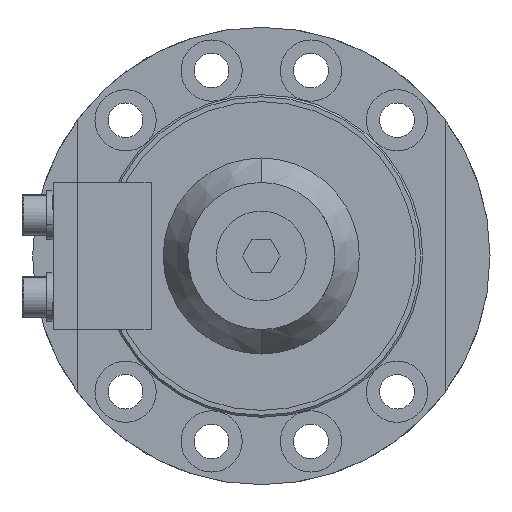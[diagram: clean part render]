
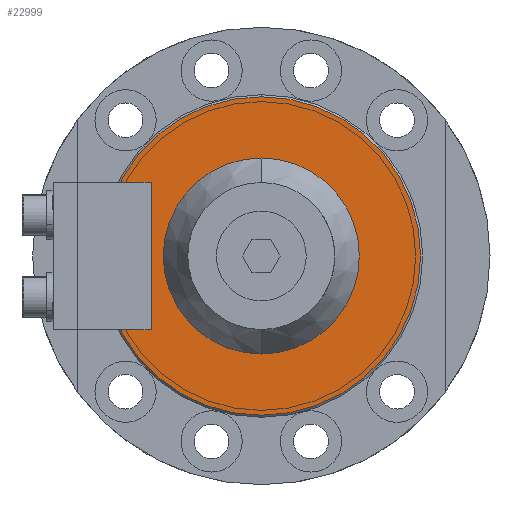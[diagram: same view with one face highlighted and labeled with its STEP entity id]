
A CAD part, left-side view. The second image highlights one B-rep face of the part: STEP entity #22999.
In plain terms, the highlighted planar face has unit normal (-1, 0, 0).
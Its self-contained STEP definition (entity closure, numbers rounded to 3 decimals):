
#502 = EDGE_LOOP ( 'NONE', ( #15719, #6153 ) ) ;
#825 = CARTESIAN_POINT ( 'NONE',  ( -120., 0., 0. ) ) ;
#1098 = VERTEX_POINT ( 'NONE', #32070 ) ;
#1480 = DIRECTION ( 'NONE',  ( -1., 0., 0. ) ) ;
#3520 = AXIS2_PLACEMENT_3D ( 'NONE', #4352, #1480, #29857 ) ;
#4352 = CARTESIAN_POINT ( 'NONE',  ( -120., 0., 0. ) ) ;
#4695 = VERTEX_POINT ( 'NONE', #13489 ) ;
#6153 = ORIENTED_EDGE ( 'NONE', *, *, #16308, .F. ) ;
#6300 = CARTESIAN_POINT ( 'NONE',  ( -120., 0., 0. ) ) ;
#7198 = ORIENTED_EDGE ( 'NONE', *, *, #10944, .T. ) ;
#8310 = AXIS2_PLACEMENT_3D ( 'NONE', #20806, #28457, #10578 ) ;
#9890 = DIRECTION ( 'NONE',  ( -1., 0., 0. ) ) ;
#10276 = EDGE_CURVE ( 'NONE', #32865, #1098, #19896, .T. ) ;
#10578 = DIRECTION ( 'NONE',  ( 0., 0., -1. ) ) ;
#10944 = EDGE_CURVE ( 'NONE', #4695, #13458, #29487, .T. ) ;
#11088 = DIRECTION ( 'NONE',  ( 0., 0., -1. ) ) ;
#11568 = EDGE_CURVE ( 'NONE', #13458, #4695, #32861, .T. ) ;
#13458 = VERTEX_POINT ( 'NONE', #14388 ) ;
#13489 = CARTESIAN_POINT ( 'NONE',  ( -120., 0., -39. ) ) ;
#14388 = CARTESIAN_POINT ( 'NONE',  ( -120., 0., 39. ) ) ;
#15719 = ORIENTED_EDGE ( 'NONE', *, *, #10276, .F. ) ;
#16308 = EDGE_CURVE ( 'NONE', #1098, #32865, #31198, .T. ) ;
#16404 = DIRECTION ( 'NONE',  ( 0., 0., -1. ) ) ;
#17279 = EDGE_LOOP ( 'NONE', ( #30335, #7198 ) ) ;
#17833 = AXIS2_PLACEMENT_3D ( 'NONE', #32910, #9890, #30906 ) ;
#18602 = CARTESIAN_POINT ( 'NONE',  ( -120., 0., -21.153 ) ) ;
#19128 = DIRECTION ( 'NONE',  ( -1., 0., 0. ) ) ;
#19896 = CIRCLE ( 'NONE', #3520, 21.153 ) ;
#20806 = CARTESIAN_POINT ( 'NONE',  ( -120., 0., 0. ) ) ;
#22999 = ADVANCED_FACE ( 'NONE', ( #31003, #31831 ), #32803, .T. ) ;
#23093 = AXIS2_PLACEMENT_3D ( 'NONE', #6300, #19128, #16404 ) ;
#24091 = DIRECTION ( 'NONE',  ( -1., 0., 0. ) ) ;
#28457 = DIRECTION ( 'NONE',  ( -1., 0., 0. ) ) ;
#29487 = CIRCLE ( 'NONE', #23093, 39. ) ;
#29857 = DIRECTION ( 'NONE',  ( 0., 0., -1. ) ) ;
#30335 = ORIENTED_EDGE ( 'NONE', *, *, #11568, .T. ) ;
#30906 = DIRECTION ( 'NONE',  ( 0., 0., -1. ) ) ;
#31003 = FACE_BOUND ( 'NONE', #502, .T. ) ;
#31198 = CIRCLE ( 'NONE', #8310, 21.153 ) ;
#31831 = FACE_OUTER_BOUND ( 'NONE', #17279, .T. ) ;
#32070 = CARTESIAN_POINT ( 'NONE',  ( -120., 0., 21.153 ) ) ;
#32635 = AXIS2_PLACEMENT_3D ( 'NONE', #825, #24091, #11088 ) ;
#32803 = PLANE ( 'NONE',  #17833 ) ;
#32861 = CIRCLE ( 'NONE', #32635, 39. ) ;
#32865 = VERTEX_POINT ( 'NONE', #18602 ) ;
#32910 = CARTESIAN_POINT ( 'NONE',  ( -120., -18.25, 0. ) ) ;
